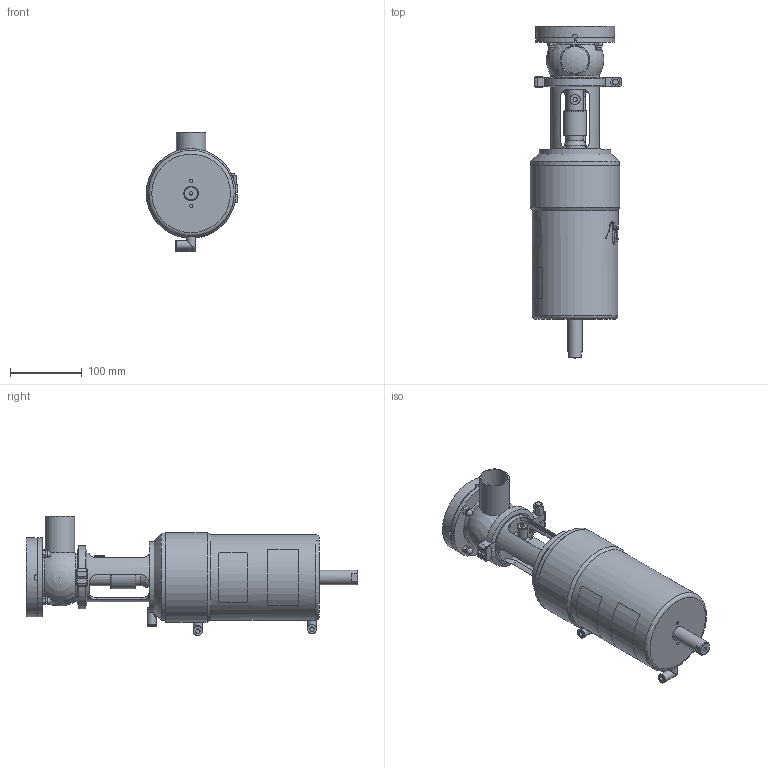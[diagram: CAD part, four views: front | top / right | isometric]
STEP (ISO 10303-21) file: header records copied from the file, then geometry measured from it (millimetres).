
FILE_DESCRIPTION (( 'STEP AP214' ), '1' );
FILE_NAME ('INNOVA T L W DIN 040 WITH FLANGE_10.252.16.0005.STEP', '2024-08-21T11:28:06', ( '' ), ( '' ), 'SwSTEP 2.0', 'SolidWorks 2023', '' );
FILE_SCHEMA (( 'AUTOMOTIVE_DESIGN' ));
Length unit declared in the file: millimetre
Products named in the file (6): 10.240.15.0001_DN 040; 10.248.15.0003_DIN 040 _ OD 1½"; 10.250.15.0002_Type T T1; 10.252.15.0001_DIN 040; 10.240.15.0006_DIN 040; INNOVA T L W DIN 040 WITH FLANGE_10.252.16.0005
Assembly tree (5 placements, depth 2):
  INNOVA T L W DIN 040 WITH FLANGE_10.252.16.0005
    10.240.15.0006_DIN 040
    10.248.15.0003_DIN 040 _ OD 1½"
    10.252.15.0001_DIN 040
    10.250.15.0002_Type T T1
    10.240.15.0001_DN 040
Bounding box: 127.5 x 462.27 x 166 mm (x, y, z)
Volume: 3299785.5 mm3; surface area: 270059.5 mm2
Topology: 5 solids, 5 shells, 417 faces, 1096 edges, 714 vertices
Faces by surface type: plane 200, cylinder 106, bspline 83, cone 21, sphere 6, torus 1
Full cylindrical faces by diameter (mm): 4.2 x2, 5 x1, 6 x1, 6.15 x3, 8 x2, 9.5 x4, 10.5 x3, 12 x1, 12.5 x9, 14 x2, 20 x1, 23 x2, 28 x1, 31.5 x1, 38 x1, 41 x1, 67.5 x2, 68 x1, 79.5 x3, 90 x1, 110 x1, 119.5 x1, 125 x1
Entity records: 22954 total; most frequent: CARTESIAN_POINT 11831, ORIENTED_EDGE 1984, DIRECTION 1587, EDGE_CURVE 992, VERTEX_POINT 685, AXIS2_PLACEMENT_3D 592, EDGE_LOOP 527, FACE_OUTER_BOUND 466
